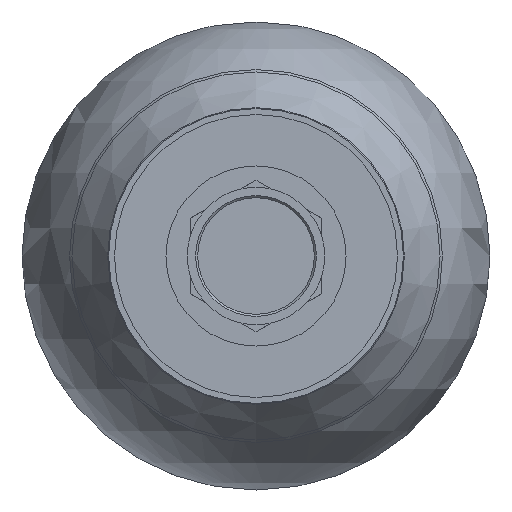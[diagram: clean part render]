
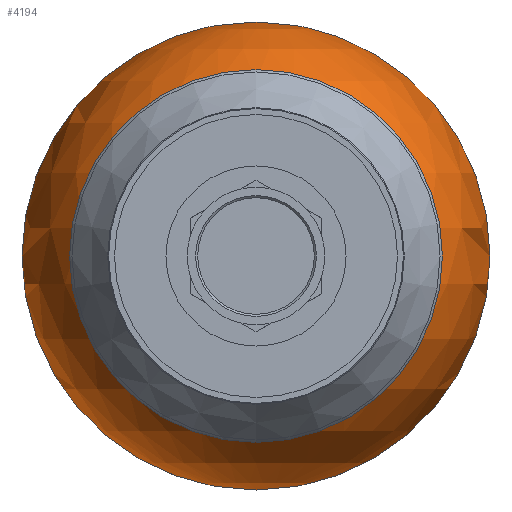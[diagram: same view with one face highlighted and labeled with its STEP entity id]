
A CAD part, front view. The second image highlights one B-rep face of the part: STEP entity #4194.
In plain terms, the highlighted spherical face has radius 57.15 mm.
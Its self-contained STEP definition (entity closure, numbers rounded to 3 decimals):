
#4039=CARTESIAN_POINT('',(-140.659,63.5,0.0));
#4040=VERTEX_POINT('',#4039);
#4041=CARTESIAN_POINT('',(-140.659,6.35,0.0));
#4042=DIRECTION('',(1.0,0.0,0.0));
#4043=DIRECTION('',(0.0,1.0,0.0));
#4044=AXIS2_PLACEMENT_3D('',#4041,#4042,#4043);
#4045=CIRCLE('',#4044,57.15);
#4046=EDGE_CURVE('',#4040,#4040,#4045,.T.);
#4168=CARTESIAN_POINT('',(-193.405,28.35,0.0));
#4169=VERTEX_POINT('',#4168);
#4170=CARTESIAN_POINT('',(-193.405,6.35,0.0));
#4171=DIRECTION('',(1.0,0.0,0.0));
#4172=DIRECTION('',(0.0,1.0,0.0));
#4173=AXIS2_PLACEMENT_3D('',#4170,#4171,#4172);
#4174=CIRCLE('',#4173,22.);
#4175=EDGE_CURVE('',#4169,#4169,#4174,.T.);
#4183=CARTESIAN_POINT('',(-140.659,6.35,0.0));
#4184=DIRECTION('',(0.0,0.0,1.0));
#4185=DIRECTION('',(1.0,0.0,0.0));
#4186=AXIS2_PLACEMENT_3D('',#4183,#4184,#4185);
#4187=SPHERICAL_SURFACE('',#4186,57.15);
#4188=ORIENTED_EDGE('',*,*,#4046,.F.);
#4189=EDGE_LOOP('',(#4188));
#4190=FACE_OUTER_BOUND('',#4189,.T.);
#4191=ORIENTED_EDGE('',*,*,#4175,.T.);
#4192=EDGE_LOOP('',(#4191));
#4193=FACE_BOUND('',#4192,.T.);
#4194=ADVANCED_FACE('',(#4190,#4193),#4187,.T.);
